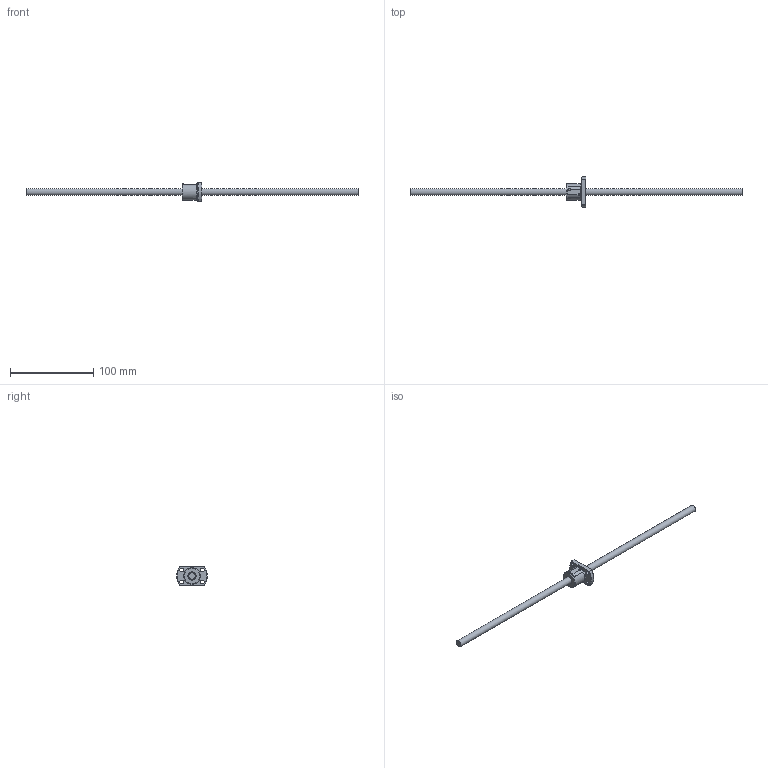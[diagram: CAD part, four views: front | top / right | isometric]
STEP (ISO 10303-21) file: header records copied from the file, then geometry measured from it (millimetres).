
FILE_DESCRIPTION( ( 'STEP AP214' ), ' ' );
FILE_NAME( 'p:/temp/worker_4/1548_2664/app_51_12015091121524278128857260eae72_000000_00_00_000000/format_0/SR0802-400R400C7(188).stp', '2015-09-11T19:52:43', ( '' ), ( '' ), ' ', 'PARTsolutions', ' ' );
FILE_SCHEMA( ( 'AUTOMOTIVE_DESIGN { 1 0 10303 214 1 1 1 1 }' ) );
Length unit declared in the file: millimetre
Products named in the file (3): SR0802-400R400C7(188); _SR0802-400R400C7(188)_shaft; _SR0802-400R400C7C7_nut
Assembly tree (2 placements, depth 2):
  SR0802-400R400C7(188)
    _SR0802-400R400C7(188)_shaft
    _SR0802-400R400C7C7_nut
Bounding box: 400 x 37 x 22 mm (x, y, z)
Volume: 28118.7 mm3; surface area: 14080.1 mm2
Topology: 2 solids, 2 shells, 58 faces, 149 edges, 98 vertices
Faces by surface type: plane 25, cylinder 24, cone 9
Full cylindrical faces by diameter (mm): 1.07 x2, 4.5 x4, 8 x2, 10 x2, 19.7 x1, 20 x1
Entity records: 2214 total; most frequent: CARTESIAN_POINT 359, DIRECTION 286, ORIENTED_EDGE 250, EDGE_CURVE 125, AXIS2_PLACEMENT_3D 118, VERTEX_POINT 91, EDGE_LOOP 88, FACE_OUTER_BOUND 70
